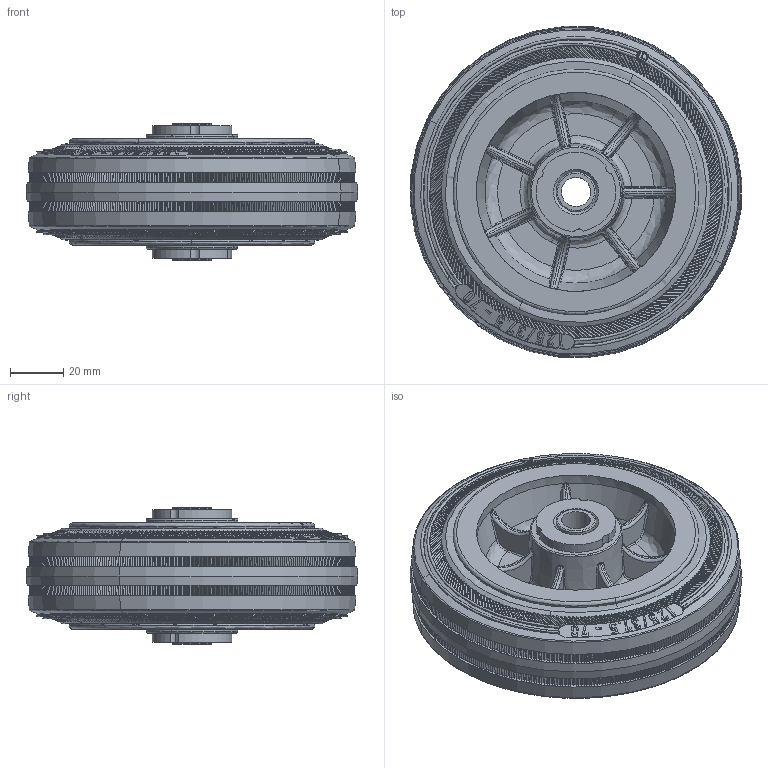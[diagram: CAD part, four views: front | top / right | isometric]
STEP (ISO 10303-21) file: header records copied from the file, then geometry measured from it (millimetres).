
FILE_DESCRIPTION (( 'STEP AP214' ), '1' );
FILE_NAME ('401654.STEP', '2020-01-17T06:30:40', ( '' ), ( '' ), 'SwSTEP 2.0', 'SolidWorks 2017', '' );
FILE_SCHEMA (( 'AUTOMOTIVE_DESIGN' ));
Length unit declared in the file: millimetre
Products named in the file (1): 401654
Bounding box: 124.7 x 124.7 x 51.5 mm (x, y, z)
Volume: 327772.7 mm3; surface area: 90668 mm2
Topology: 5 solids, 5 shells, 4187 faces, 12223 edges, 8068 vertices
Faces by surface type: plane 2756, cylinder 579, cone 464, bspline 388
Entity records: 233348 total; most frequent: CARTESIAN_POINT 88732, ORIENTED_EDGE 24446, DIRECTION 15399, EDGE_CURVE 12223, VERTEX_POINT 8068, LINE 6747, VECTOR 6747, AXIS2_PLACEMENT_3D 4326
